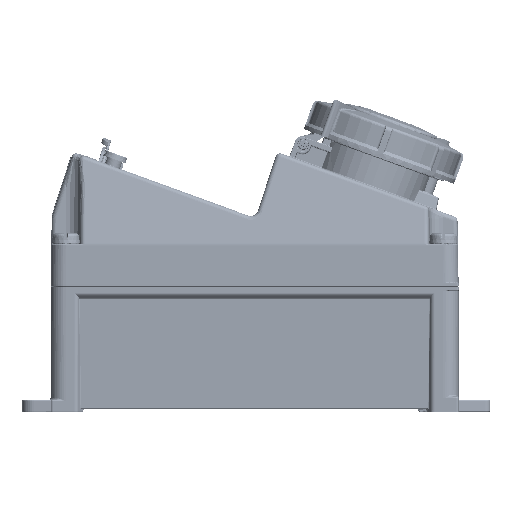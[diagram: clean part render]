
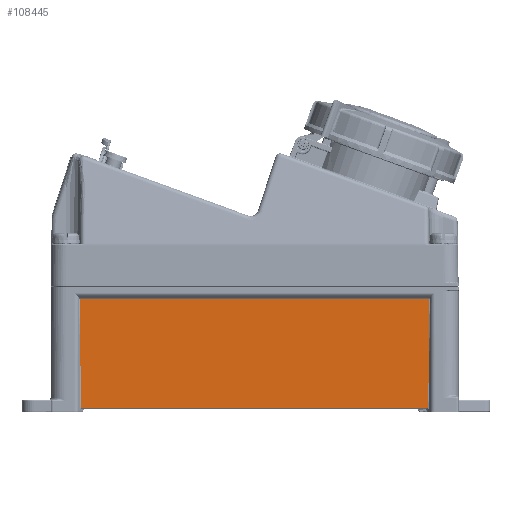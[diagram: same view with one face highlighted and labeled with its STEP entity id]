
A CAD part, left-side view. The second image highlights one B-rep face of the part: STEP entity #108445.
In plain terms, the highlighted planar face has unit normal (-1, 0, -0.018).
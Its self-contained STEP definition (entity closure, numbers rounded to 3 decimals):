
#17107=CARTESIAN_POINT('',(3.779,20.212,2.983));
#17108=CARTESIAN_POINT('',(3.779,20.204,2.983));
#17109=CARTESIAN_POINT('',(3.779,20.189,2.982));
#17110=CARTESIAN_POINT('',(3.779,20.167,2.982));
#17111=CARTESIAN_POINT('',(3.779,20.153,2.982));
#17112=CARTESIAN_POINT('',(3.779,20.145,2.981));
#17126=DIRECTION('',(0.,-1.,0.));
#17127=VECTOR('',#17126,220.443);
#17128=CARTESIAN_POINT('',(3.779,240.655,2.983));
#17129=LINE('40221',#17128,#17127);
#17229=CARTESIAN_POINT('',(3.779,20.145,2.981));
#17230=CARTESIAN_POINT('',(3.779,20.05,2.978));
#17231=CARTESIAN_POINT('',(3.779,19.864,2.959));
#17232=CARTESIAN_POINT('',(3.78,19.592,2.89));
#17233=CARTESIAN_POINT('',(3.782,19.427,2.822));
#17234=CARTESIAN_POINT('',(3.782,19.347,2.782));
#17236=CARTESIAN_POINT('',(3.782,19.347,2.782));
#17244=DIRECTION('',(-0.017,0.01,1.));
#17245=VECTOR('',#17244,69.263);
#17246=CARTESIAN_POINT('',(3.779,240.655,2.983));
#17247=LINE('40229',#17246,#17245);
#17248=DIRECTION('',(0.017,0.01,-1.));
#17249=VECTOR('',#17248,69.464);
#17250=CARTESIAN_POINT('',(2.57,18.647,72.232));
#17251=LINE('40243',#17250,#17249);
#17252=DIRECTION('',(0.,1.,0.));
#17253=VECTOR('',#17252,222.705);
#17254=CARTESIAN_POINT('',(2.57,18.647,72.232));
#17255=LINE('40242',#17254,#17253);
#17256=CARTESIAN_POINT('',(2.57,241.353,72.232));
#65435=CARTESIAN_POINT('',(3.779,20.212,2.983));
#65436=VERTEX_POINT('',#65435);
#65437=VERTEX_POINT('',#17112);
#65439=CARTESIAN_POINT('',(3.779,240.655,2.983));
#65440=VERTEX_POINT('',#65439);
#65446=VERTEX_POINT('',#17256);
#65455=VERTEX_POINT('',#17236);
#65456=CARTESIAN_POINT('',(2.57,18.647,72.232));
#65457=VERTEX_POINT('',#65456);
#108430=CARTESIAN_POINT('',(2.566,243.125,72.434));
#108431=DIRECTION('',(1.,0.,0.017));
#108432=DIRECTION('',(0.017,0.,-1.));
#108433=AXIS2_PLACEMENT_3D('',#108430,#108431,#108432);
#108434=PLANE('49359',#108433);
#108435=ORIENTED_EDGE('40241',*,*,#108417,.F.);
#108436=ORIENTED_EDGE('40217',*,*,#108111,.F.);
#108437=ORIENTED_EDGE('40221',*,*,#108135,.F.);
#108438=ORIENTED_EDGE('40229',*,*,#108188,.T.);
#108440=ORIENTED_EDGE('40242',*,*,#108439,.F.);
#108442=ORIENTED_EDGE('40243',*,*,#108441,.T.);
#108443=EDGE_LOOP('49359',(#108435,#108436,#108437,#108438,#108440,#108442));
#108444=FACE_OUTER_BOUND('49359',#108443,.F.);
#17113=B_SPLINE_CURVE_WITH_KNOTS('40217',3,(#17107,#17108,#17109,#17110,#17111,
#17112),.UNSPECIFIED.,.F.,.F.,(4,1,1,4),(0.,0.333,
0.667,1.),.UNSPECIFIED.);
#17235=B_SPLINE_CURVE_WITH_KNOTS('40241',3,(#17229,#17230,#17231,#17232,#17233,
#17234),.UNSPECIFIED.,.F.,.F.,(4,1,1,4),(0.,0.333,
0.667,1.),.UNSPECIFIED.);
#108111=EDGE_CURVE('40217',#65436,#65437,#17113,.T.);
#108135=EDGE_CURVE('40221',#65440,#65436,#17129,.T.);
#108188=EDGE_CURVE('40229',#65440,#65446,#17247,.T.);
#108417=EDGE_CURVE('40241',#65437,#65455,#17235,.T.);
#108439=EDGE_CURVE('40242',#65457,#65446,#17255,.T.);
#108441=EDGE_CURVE('40243',#65457,#65455,#17251,.T.);
#108445=ADVANCED_FACE('49359',(#108444),#108434,.F.);
